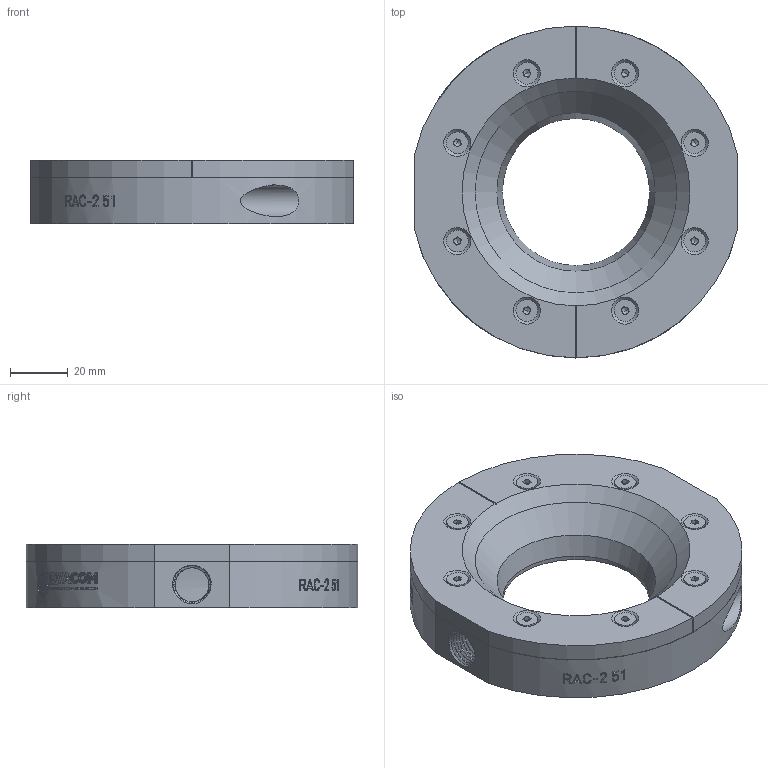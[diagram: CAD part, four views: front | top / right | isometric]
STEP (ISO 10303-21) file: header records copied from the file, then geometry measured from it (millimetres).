
FILE_DESCRIPTION (( 'STEP AP214' ), '1' );
FILE_NAME ('STEP - RAC-2 51.STEP', '2023-07-13T09:32:25', ( '' ), ( '' ), 'SwSTEP 2.0', 'SolidWorks 2021', '' );
FILE_SCHEMA (( 'AUTOMOTIVE_DESIGN' ));
Length unit declared in the file: millimetre
Products named in the file (1): STEP - RAC-2 51
Bounding box: 112 x 115 x 22.1 mm (x, y, z)
Volume: 155312.6 mm3; surface area: 34818.5 mm2
Topology: 3 solids, 192 shells, 2075 faces, 4706 edges, 3082 vertices
Faces by surface type: bspline 1106, cylinder 538, plane 308, cone 95, torus 28
Full cylindrical faces by diameter (mm): 4.5 x8, 5 x24, 11 x2, 51 x1
Entity records: 539075 total; most frequent: CARTESIAN_POINT 482477, ORIENTED_EDGE 9102, EDGE_CURVE 4551, DIRECTION 3515, VERTEX_POINT 3003, B_SPLINE_CURVE_WITH_KNOTS 2407, EDGE_LOOP 2184, FACE_OUTER_BOUND 2062
